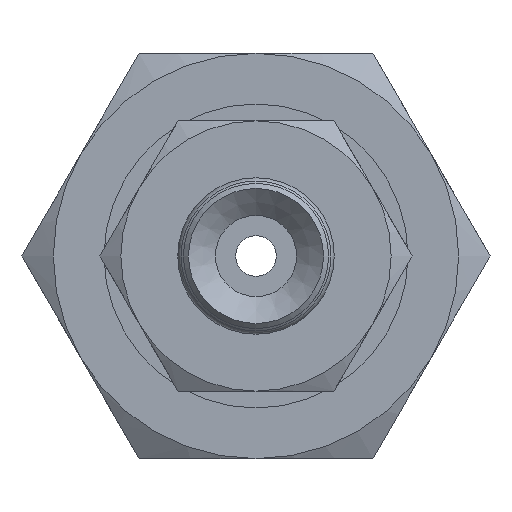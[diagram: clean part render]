
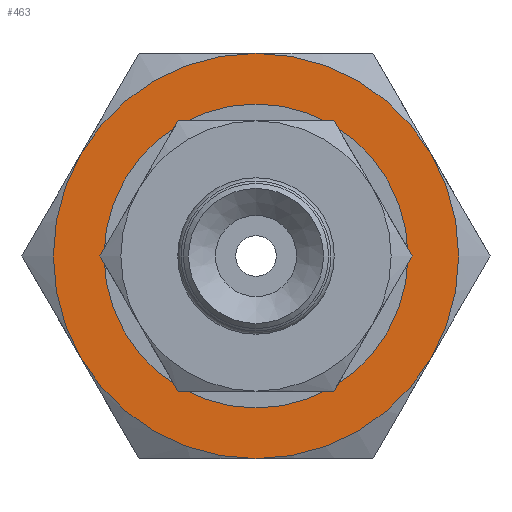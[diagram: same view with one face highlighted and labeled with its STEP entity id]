
A CAD part, front view. The second image highlights one B-rep face of the part: STEP entity #463.
In plain terms, the highlighted planar face has unit normal (0, -1, 0) as drawn and (-1, 0, 0) by its records, which use the part's own axes.
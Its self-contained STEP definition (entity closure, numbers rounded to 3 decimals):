
#463=ADVANCED_FACE('',(#651,#652),#653,.F.);
#651=FACE_BOUND('',#901,.T.);
#652=FACE_OUTER_BOUND('',#902,.T.);
#653=PLANE('',#903);
#901=EDGE_LOOP('',(#1459));
#902=EDGE_LOOP('',(#1460,#1461,#1462,#1463,#1464,#1465));
#903=AXIS2_PLACEMENT_3D('',#1466,#1467,#1468);
#1459=ORIENTED_EDGE('',*,*,#1779,.T.);
#1460=ORIENTED_EDGE('',*,*,#1760,.F.);
#1461=ORIENTED_EDGE('',*,*,#1797,.F.);
#1462=ORIENTED_EDGE('',*,*,#1793,.F.);
#1463=ORIENTED_EDGE('',*,*,#1768,.F.);
#1464=ORIENTED_EDGE('',*,*,#1767,.F.);
#1465=ORIENTED_EDGE('',*,*,#1762,.F.);
#1466=CARTESIAN_POINT('',(0.,0.0,0.0));
#1467=DIRECTION('',(1.0,0.0,0.0));
#1468=DIRECTION('',(0.0,1.0,0.0));
#1760=EDGE_CURVE('',#2004,#2007,#2008,.T.);
#1762=EDGE_CURVE('',#2007,#2010,#2011,.T.);
#1767=EDGE_CURVE('',#2010,#2015,#2019,.T.);
#1768=EDGE_CURVE('',#2015,#2020,#2021,.T.);
#1779=EDGE_CURVE('',#2039,#2039,#2040,.T.);
#1793=EDGE_CURVE('',#2020,#2053,#2060,.T.);
#1797=EDGE_CURVE('',#2053,#2004,#2065,.T.);
#2004=VERTEX_POINT('',#2432);
#2007=VERTEX_POINT('',#2455);
#2008=CIRCLE('',#2456,6.0);
#2010=VERTEX_POINT('',#2468);
#2011=CIRCLE('',#2469,6.0);
#2015=VERTEX_POINT('',#2493);
#2019=CIRCLE('',#2517,6.0);
#2020=VERTEX_POINT('',#2518);
#2021=CIRCLE('',#2519,6.0);
#2039=VERTEX_POINT('',#2577);
#2040=CIRCLE('',#2578,4.0);
#2053=VERTEX_POINT('',#2634);
#2060=CIRCLE('',#2691,6.0);
#2065=CIRCLE('',#2707,6.0);
#2432=CARTESIAN_POINT('',(0.,5.196,-3.0));
#2455=CARTESIAN_POINT('',(0.,5.196,3.0));
#2456=AXIS2_PLACEMENT_3D('',#2927,#2928,#2929);
#2468=CARTESIAN_POINT('',(0.,0.0,6.0));
#2469=AXIS2_PLACEMENT_3D('',#2930,#2931,#2932);
#2493=CARTESIAN_POINT('',(0.,-5.196,3.0));
#2517=AXIS2_PLACEMENT_3D('',#2933,#2934,#2935);
#2518=CARTESIAN_POINT('',(0.,-5.196,-3.0));
#2519=AXIS2_PLACEMENT_3D('',#2936,#2937,#2938);
#2577=CARTESIAN_POINT('',(0.,0.0,-4.0));
#2578=AXIS2_PLACEMENT_3D('',#2957,#2958,#2959);
#2634=CARTESIAN_POINT('',(0.,0.0,-6.0));
#2691=AXIS2_PLACEMENT_3D('',#2966,#2967,#2968);
#2707=AXIS2_PLACEMENT_3D('',#2973,#2974,#2975);
#2927=CARTESIAN_POINT('',(0.,0.0,0.0));
#2928=DIRECTION('',(1.0,0.0,0.0));
#2929=DIRECTION('',(0.0,0.0,-1.0));
#2930=CARTESIAN_POINT('',(0.,0.0,0.0));
#2931=DIRECTION('',(1.0,0.0,0.0));
#2932=DIRECTION('',(0.0,0.0,-1.0));
#2933=CARTESIAN_POINT('',(0.,0.0,0.0));
#2934=DIRECTION('',(1.0,0.0,0.0));
#2935=DIRECTION('',(0.0,0.0,-1.0));
#2936=CARTESIAN_POINT('',(0.,0.0,0.0));
#2937=DIRECTION('',(1.0,0.0,0.0));
#2938=DIRECTION('',(0.0,0.0,-1.0));
#2957=CARTESIAN_POINT('',(0.,0.0,0.0));
#2958=DIRECTION('',(1.0,0.0,0.0));
#2959=DIRECTION('',(0.0,0.0,-1.0));
#2966=CARTESIAN_POINT('',(0.,0.0,0.0));
#2967=DIRECTION('',(1.0,0.0,0.0));
#2968=DIRECTION('',(0.0,0.0,-1.0));
#2973=CARTESIAN_POINT('',(0.,0.0,0.0));
#2974=DIRECTION('',(1.0,0.0,0.0));
#2975=DIRECTION('',(0.0,0.0,-1.0));
